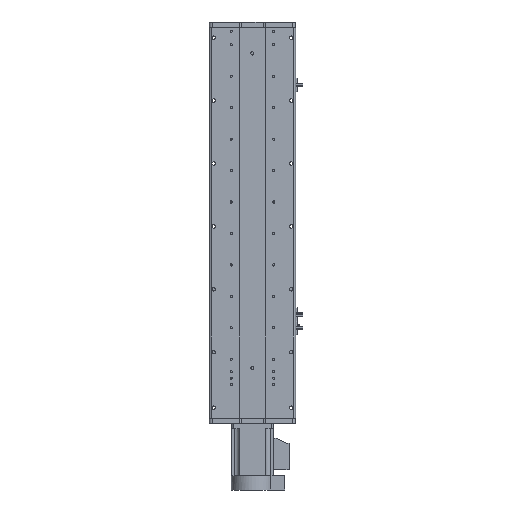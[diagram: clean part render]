
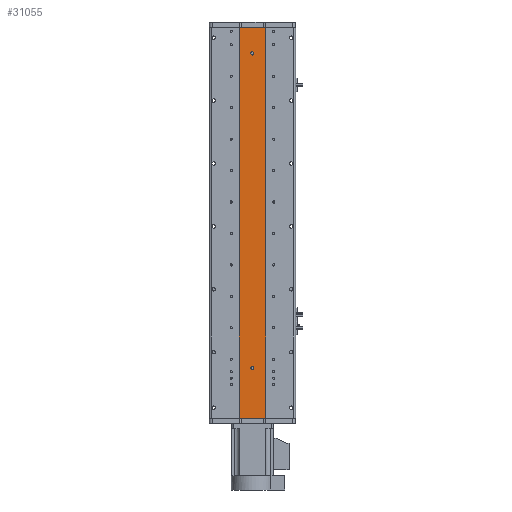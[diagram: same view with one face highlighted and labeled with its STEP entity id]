
A CAD part, front view. The second image highlights one B-rep face of the part: STEP entity #31055.
In plain terms, the highlighted planar face has unit normal (0, -1, 0).
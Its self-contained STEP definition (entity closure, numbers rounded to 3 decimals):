
#1564 = LINE ( 'NONE', #17658, #17235 ) ;
#1796 = DIRECTION ( 'NONE',  ( 1., 0., 0. ) ) ;
#2120 = AXIS2_PLACEMENT_3D ( 'NONE', #32017, #14419, #34934 ) ;
#2121 = EDGE_LOOP ( 'NONE', ( #15261, #7370 ) ) ;
#2503 = VECTOR ( 'NONE', #11229, 1000. ) ;
#2811 = AXIS2_PLACEMENT_3D ( 'NONE', #4046, #24662, #7028 ) ;
#3484 = DIRECTION ( 'NONE',  ( 0., 0., 1. ) ) ;
#4046 = CARTESIAN_POINT ( 'NONE',  ( 0., 1., 323. ) ) ;
#4337 = AXIS2_PLACEMENT_3D ( 'NONE', #12219, #21112, #3484 ) ;
#4371 = VECTOR ( 'NONE', #15193, 1000. ) ;
#4500 = VERTEX_POINT ( 'NONE', #33936 ) ;
#4838 = EDGE_CURVE ( 'NONE', #30752, #25002, #19133, .T. ) ;
#5635 = VERTEX_POINT ( 'NONE', #11400 ) ;
#6264 = CIRCLE ( 'NONE', #2811, 3. ) ;
#7028 = DIRECTION ( 'NONE',  ( 0., 0., -1. ) ) ;
#7214 = CARTESIAN_POINT ( 'NONE',  ( 0., 1., -280. ) ) ;
#7370 = ORIENTED_EDGE ( 'NONE', *, *, #10867, .F. ) ;
#7572 = EDGE_CURVE ( 'NONE', #5635, #26739, #25668, .T. ) ;
#8145 = VECTOR ( 'NONE', #1796, 1000. ) ;
#8391 = CARTESIAN_POINT ( 'NONE',  ( 0., 1., -277. ) ) ;
#9313 = PLANE ( 'NONE',  #4337 ) ;
#9583 = CARTESIAN_POINT ( 'NONE',  ( 25., 1., 373. ) ) ;
#10620 = EDGE_CURVE ( 'NONE', #25002, #11212, #31589, .T. ) ;
#10845 = FACE_BOUND ( 'NONE', #2121, .T. ) ;
#10867 = EDGE_CURVE ( 'NONE', #18051, #4500, #6264, .T. ) ;
#11212 = VERTEX_POINT ( 'NONE', #25579 ) ;
#11229 = DIRECTION ( 'NONE',  ( 0., 0., -1. ) ) ;
#11238 = LINE ( 'NONE', #17207, #2503 ) ;
#11317 = DIRECTION ( 'NONE',  ( 0., 0., -1. ) ) ;
#11400 = CARTESIAN_POINT ( 'NONE',  ( 0., 1., -274. ) ) ;
#11696 = ORIENTED_EDGE ( 'NONE', *, *, #27995, .F. ) ;
#12137 = ORIENTED_EDGE ( 'NONE', *, *, #19082, .F. ) ;
#12219 = CARTESIAN_POINT ( 'NONE',  ( 25., 1., 373. ) ) ;
#12559 = ORIENTED_EDGE ( 'NONE', *, *, #4838, .T. ) ;
#13121 = CIRCLE ( 'NONE', #28136, 3. ) ;
#13568 = CARTESIAN_POINT ( 'NONE',  ( 25., 1., -373. ) ) ;
#14419 = DIRECTION ( 'NONE',  ( 0., -1., 0. ) ) ;
#15193 = DIRECTION ( 'NONE',  ( 0., 0., -1. ) ) ;
#15261 = ORIENTED_EDGE ( 'NONE', *, *, #17361, .F. ) ;
#16216 = CIRCLE ( 'NONE', #26261, 3. ) ;
#17207 = CARTESIAN_POINT ( 'NONE',  ( 25., 1., 373. ) ) ;
#17235 = VECTOR ( 'NONE', #26593, 1000. ) ;
#17333 = DIRECTION ( 'NONE',  ( 0., -1., 0. ) ) ;
#17361 = EDGE_CURVE ( 'NONE', #4500, #18051, #13121, .T. ) ;
#17658 = CARTESIAN_POINT ( 'NONE',  ( 25., 1., 373. ) ) ;
#17816 = FACE_BOUND ( 'NONE', #29249, .T. ) ;
#18051 = VERTEX_POINT ( 'NONE', #36332 ) ;
#18419 = EDGE_CURVE ( 'NONE', #30752, #27770, #1564, .T. ) ;
#18469 = CARTESIAN_POINT ( 'NONE',  ( -25., 1., 373. ) ) ;
#18704 = FACE_OUTER_BOUND ( 'NONE', #21104, .T. ) ;
#19082 = EDGE_CURVE ( 'NONE', #26739, #5635, #16216, .T. ) ;
#19133 = LINE ( 'NONE', #32791, #4371 ) ;
#19457 = ORIENTED_EDGE ( 'NONE', *, *, #18419, .F. ) ;
#21104 = EDGE_LOOP ( 'NONE', ( #22549, #11696, #19457, #12559 ) ) ;
#21112 = DIRECTION ( 'NONE',  ( 0., 1., 0. ) ) ;
#22549 = ORIENTED_EDGE ( 'NONE', *, *, #10620, .T. ) ;
#24662 = DIRECTION ( 'NONE',  ( 0., -1., 0. ) ) ;
#25002 = VERTEX_POINT ( 'NONE', #33255 ) ;
#25579 = CARTESIAN_POINT ( 'NONE',  ( 25., 1., -373. ) ) ;
#25668 = CIRCLE ( 'NONE', #2120, 3. ) ;
#26261 = AXIS2_PLACEMENT_3D ( 'NONE', #8391, #28925, #11317 ) ;
#26593 = DIRECTION ( 'NONE',  ( 1., 0., 0. ) ) ;
#26739 = VERTEX_POINT ( 'NONE', #7214 ) ;
#27770 = VERTEX_POINT ( 'NONE', #9583 ) ;
#27995 = EDGE_CURVE ( 'NONE', #27770, #11212, #11238, .T. ) ;
#28136 = AXIS2_PLACEMENT_3D ( 'NONE', #34842, #17333, #37834 ) ;
#28925 = DIRECTION ( 'NONE',  ( 0., -1., 0. ) ) ;
#29249 = EDGE_LOOP ( 'NONE', ( #12137, #37654 ) ) ;
#30752 = VERTEX_POINT ( 'NONE', #18469 ) ;
#31055 = ADVANCED_FACE ( 'NONE', ( #10845, #17816, #18704 ), #9313, .F. ) ;
#31589 = LINE ( 'NONE', #13568, #8145 ) ;
#32017 = CARTESIAN_POINT ( 'NONE',  ( 0., 1., -277. ) ) ;
#32791 = CARTESIAN_POINT ( 'NONE',  ( -25., 1., 373. ) ) ;
#33255 = CARTESIAN_POINT ( 'NONE',  ( -25., 1., -373. ) ) ;
#33936 = CARTESIAN_POINT ( 'NONE',  ( 0., 1., 320. ) ) ;
#34842 = CARTESIAN_POINT ( 'NONE',  ( 0., 1., 323. ) ) ;
#34934 = DIRECTION ( 'NONE',  ( 0., 0., -1. ) ) ;
#36332 = CARTESIAN_POINT ( 'NONE',  ( 0., 1., 326. ) ) ;
#37654 = ORIENTED_EDGE ( 'NONE', *, *, #7572, .F. ) ;
#37834 = DIRECTION ( 'NONE',  ( 0., 0., -1. ) ) ;
